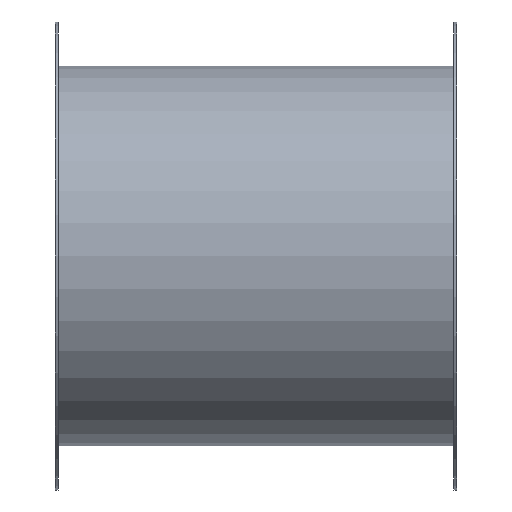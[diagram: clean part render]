
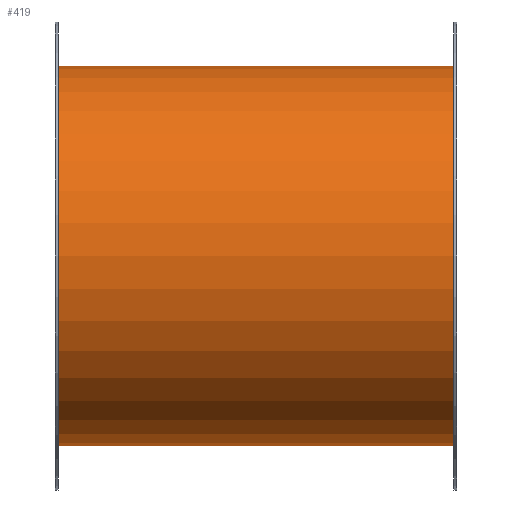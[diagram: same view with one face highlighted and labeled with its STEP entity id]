
A CAD part, left-side view. The second image highlights one B-rep face of the part: STEP entity #419.
In plain terms, the highlighted cylindrical face has radius 142 mm (diameter 284 mm), a full revolution.
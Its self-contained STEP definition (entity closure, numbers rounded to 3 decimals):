
#55=FACE_BOUND('',#156,.T.);
#95=FACE_OUTER_BOUND('',#155,.T.);
#155=EDGE_LOOP('',(#355));
#156=EDGE_LOOP('',(#356));
#215=CIRCLE('',#487,142.);
#216=CIRCLE('',#489,142.);
#255=VERTEX_POINT('',#718);
#256=VERTEX_POINT('',#721);
#295=EDGE_CURVE('',#255,#255,#215,.T.);
#296=EDGE_CURVE('',#256,#256,#216,.T.);
#355=ORIENTED_EDGE('',*,*,#296,.F.);
#356=ORIENTED_EDGE('',*,*,#295,.T.);
#397=CYLINDRICAL_SURFACE('',#488,142.);
#419=ADVANCED_FACE('',(#95,#55),#397,.T.);
#487=AXIS2_PLACEMENT_3D('',#719,#609,#610);
#488=AXIS2_PLACEMENT_3D('',#720,#611,#612);
#489=AXIS2_PLACEMENT_3D('',#722,#613,#614);
#609=DIRECTION('center_axis',(0.,1.,0.));
#610=DIRECTION('ref_axis',(1.,0.,0.));
#611=DIRECTION('center_axis',(0.,1.,0.));
#612=DIRECTION('ref_axis',(-1.,0.,0.));
#613=DIRECTION('center_axis',(0.,1.,0.));
#614=DIRECTION('ref_axis',(1.,0.,0.));
#718=CARTESIAN_POINT('',(-142.,2.,0.));
#719=CARTESIAN_POINT('Origin',(0.,2.,0.));
#720=CARTESIAN_POINT('Origin',(0.,150.,0.));
#721=CARTESIAN_POINT('',(-142.,298.,0.));
#722=CARTESIAN_POINT('Origin',(0.,298.,0.));
